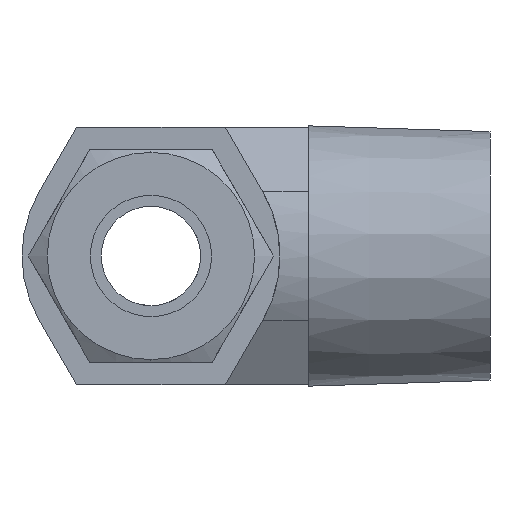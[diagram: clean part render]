
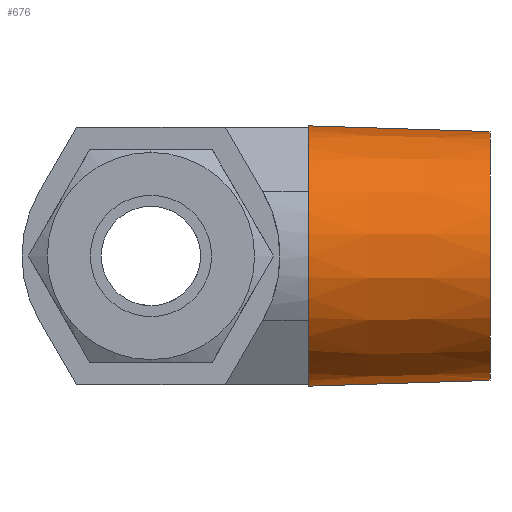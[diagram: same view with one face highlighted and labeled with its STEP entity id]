
A CAD part, left-side view. The second image highlights one B-rep face of the part: STEP entity #676.
In plain terms, the highlighted conical face has half-angle 1.8 degrees and reference radius 13.3 mm.
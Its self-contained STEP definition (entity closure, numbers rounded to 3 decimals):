
#594 = EDGE_LOOP ( 'NONE', ( #595, #599, #657, #660, #663, #666, #605, #608 ) ) ;
#595 = ORIENTED_EDGE ( 'NONE', *, *, #596, .F. ) ;
#596 = EDGE_CURVE ( 'NONE', #597, #598, #2081, .T. ) ;
#597 = VERTEX_POINT ( 'NONE', #2076 ) ;
#598 = VERTEX_POINT ( 'NONE', #2075 ) ;
#599 = ORIENTED_EDGE ( 'NONE', *, *, #600, .T. ) ;
#600 = EDGE_CURVE ( 'NONE', #597, #656, #2074, .T. ) ;
#605 = ORIENTED_EDGE ( 'NONE', *, *, #606, .T. ) ;
#606 = EDGE_CURVE ( 'NONE', #668, #607, #2064, .T. ) ;
#607 = VERTEX_POINT ( 'NONE', #2059 ) ;
#608 = ORIENTED_EDGE ( 'NONE', *, *, #609, .F. ) ;
#609 = EDGE_CURVE ( 'NONE', #598, #607, #2058, .T. ) ;
#656 = VERTEX_POINT ( 'NONE', #2148 ) ;
#657 = ORIENTED_EDGE ( 'NONE', *, *, #658, .T. ) ;
#658 = EDGE_CURVE ( 'NONE', #656, #659, #2147, .T. ) ;
#659 = VERTEX_POINT ( 'NONE', #2204 ) ;
#660 = ORIENTED_EDGE ( 'NONE', *, *, #661, .T. ) ;
#661 = EDGE_CURVE ( 'NONE', #659, #662, #2203, .T. ) ;
#662 = VERTEX_POINT ( 'NONE', #2198 ) ;
#663 = ORIENTED_EDGE ( 'NONE', *, *, #664, .T. ) ;
#664 = EDGE_CURVE ( 'NONE', #662, #665, #2197, .T. ) ;
#665 = VERTEX_POINT ( 'NONE', #2192 ) ;
#666 = ORIENTED_EDGE ( 'NONE', *, *, #667, .T. ) ;
#667 = EDGE_CURVE ( 'NONE', #665, #668, #2191, .T. ) ;
#668 = VERTEX_POINT ( 'NONE', #2186 ) ;
#676 = ADVANCED_FACE ( 'NONE', ( #2342 ), #2340, .T. ) ;
#2055 = DIRECTION ( 'NONE',  ( 0., 1., -0.031 ) ) ;
#2056 = VECTOR ( 'NONE', #2055, 1000. ) ;
#2057 = CARTESIAN_POINT ( 'NONE',  ( 0., -26.89, -13.3 ) ) ;
#2058 = LINE ( 'NONE', #2057, #2056 ) ;
#2059 = CARTESIAN_POINT ( 'NONE',  ( 0., -16.5, -13.627 ) ) ;
#2060 = DIRECTION ( 'NONE',  ( 0., 0., -1. ) ) ;
#2061 = DIRECTION ( 'NONE',  ( 0., -1., 0. ) ) ;
#2062 = CARTESIAN_POINT ( 'NONE',  ( 0., -16.5, 0. ) ) ;
#2063 = AXIS2_PLACEMENT_3D ( 'NONE', #2062, #2061, #2060 ) ;
#2064 = CIRCLE ( 'NONE', #2063, 13.627 ) ;
#2071 = DIRECTION ( 'NONE',  ( 0., 1., 0.031 ) ) ;
#2072 = VECTOR ( 'NONE', #2071, 1000. ) ;
#2073 = CARTESIAN_POINT ( 'NONE',  ( 0., -26.89, 13.3 ) ) ;
#2074 = LINE ( 'NONE', #2073, #2072 ) ;
#2075 = CARTESIAN_POINT ( 'NONE',  ( 0., -35.5, -13.029 ) ) ;
#2076 = CARTESIAN_POINT ( 'NONE',  ( 0., -35.5, 13.029 ) ) ;
#2077 = DIRECTION ( 'NONE',  ( 0., 0., -1. ) ) ;
#2078 = DIRECTION ( 'NONE',  ( 0., -1., 0. ) ) ;
#2079 = CARTESIAN_POINT ( 'NONE',  ( 0., -35.5, 0. ) ) ;
#2080 = AXIS2_PLACEMENT_3D ( 'NONE', #2079, #2078, #2077 ) ;
#2081 = CIRCLE ( 'NONE', #2080, 13.029 ) ;
#2146 = AXIS2_PLACEMENT_3D ( 'NONE', #2207, #2206, #2205 ) ;
#2147 = CIRCLE ( 'NONE', #2146, 13.627 ) ;
#2148 = CARTESIAN_POINT ( 'NONE',  ( 0., -16.5, 13.627 ) ) ;
#2186 = CARTESIAN_POINT ( 'NONE',  ( -1.853, -16.5, -13.5 ) ) ;
#2187 = DIRECTION ( 'NONE',  ( 0., 0., -1. ) ) ;
#2188 = DIRECTION ( 'NONE',  ( 0., -1., 0. ) ) ;
#2189 = CARTESIAN_POINT ( 'NONE',  ( 0., -16.5, 0. ) ) ;
#2190 = AXIS2_PLACEMENT_3D ( 'NONE', #2189, #2188, #2187 ) ;
#2191 = CIRCLE ( 'NONE', #2190, 13.627 ) ;
#2192 = CARTESIAN_POINT ( 'NONE',  ( -10.765, -16.5, -8.354 ) ) ;
#2193 = DIRECTION ( 'NONE',  ( 0., 0., -1. ) ) ;
#2194 = DIRECTION ( 'NONE',  ( 0., -1., 0. ) ) ;
#2195 = CARTESIAN_POINT ( 'NONE',  ( 0., -16.5, 0. ) ) ;
#2196 = AXIS2_PLACEMENT_3D ( 'NONE', #2195, #2194, #2193 ) ;
#2197 = CIRCLE ( 'NONE', #2196, 13.627 ) ;
#2198 = CARTESIAN_POINT ( 'NONE',  ( -10.765, -16.5, 8.354 ) ) ;
#2199 = DIRECTION ( 'NONE',  ( 0., 0., -1. ) ) ;
#2200 = DIRECTION ( 'NONE',  ( 0., -1., 0. ) ) ;
#2201 = CARTESIAN_POINT ( 'NONE',  ( 0., -16.5, 0. ) ) ;
#2202 = AXIS2_PLACEMENT_3D ( 'NONE', #2201, #2200, #2199 ) ;
#2203 = CIRCLE ( 'NONE', #2202, 13.627 ) ;
#2204 = CARTESIAN_POINT ( 'NONE',  ( -1.853, -16.5, 13.5 ) ) ;
#2205 = DIRECTION ( 'NONE',  ( 0., 0., -1. ) ) ;
#2206 = DIRECTION ( 'NONE',  ( 0., -1., 0. ) ) ;
#2207 = CARTESIAN_POINT ( 'NONE',  ( 0., -16.5, 0. ) ) ;
#2336 = DIRECTION ( 'NONE',  ( 0., 0., -1. ) ) ;
#2337 = DIRECTION ( 'NONE',  ( 0., 1., 0. ) ) ;
#2338 = CARTESIAN_POINT ( 'NONE',  ( 0., -26.89, 0. ) ) ;
#2339 = AXIS2_PLACEMENT_3D ( 'NONE', #2338, #2337, #2336 ) ;
#2340 = CONICAL_SURFACE ( 'NONE', #2339, 13.3, 0.031 ) ;
#2342 = FACE_OUTER_BOUND ( 'NONE', #594, .T. ) ;
